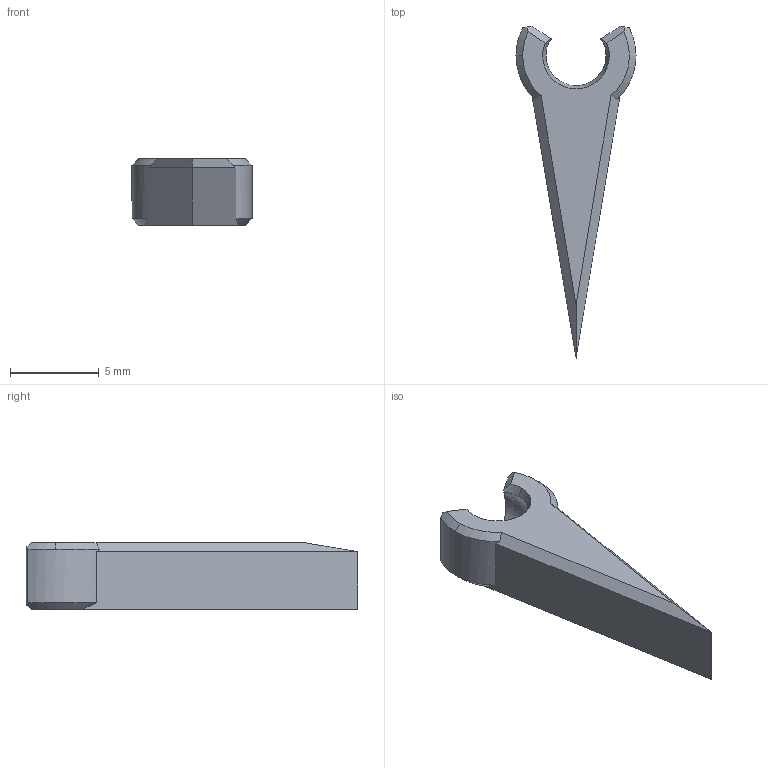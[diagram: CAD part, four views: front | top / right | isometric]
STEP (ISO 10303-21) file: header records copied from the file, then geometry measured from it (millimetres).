
FILE_DESCRIPTION (( 'STEP AP214' ), '1' );
FILE_NAME ('Tail Tip.STEP', '2023-12-23T22:18:49', ( '' ), ( '' ), 'SwSTEP 2.0', 'SolidWorks 2023', '' );
FILE_SCHEMA (( 'AUTOMOTIVE_DESIGN' ));
Length unit declared in the file: millimetre
Products named in the file (1): Tail Tip
Bounding box: 6.75 x 18.67 x 3.75 mm (x, y, z)
Volume: 177.6 mm3; surface area: 272.9 mm2
Topology: 1 solids, 1 shells, 31 faces, 88 edges, 58 vertices
Faces by surface type: plane 14, cone 12, cylinder 3, sphere 2
Entity records: 1028 total; most frequent: CARTESIAN_POINT 227, ORIENTED_EDGE 170, DIRECTION 161, EDGE_CURVE 85, AXIS2_PLACEMENT_3D 62, VERTEX_POINT 56, LINE 37, VECTOR 37
